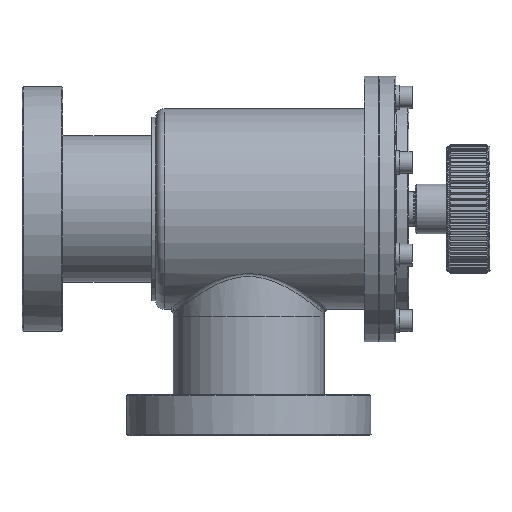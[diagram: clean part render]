
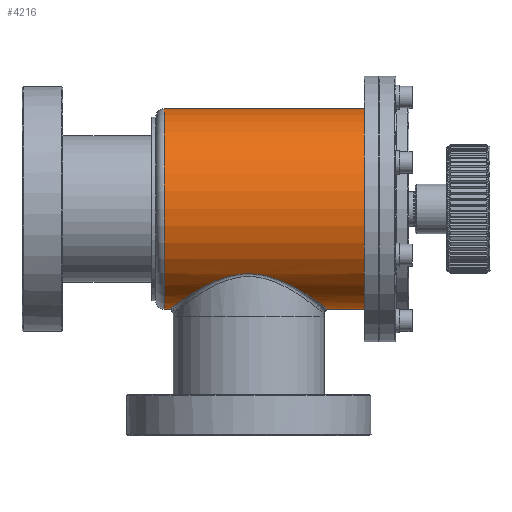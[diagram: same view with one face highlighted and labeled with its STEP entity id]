
A CAD part, top view. The second image highlights one B-rep face of the part: STEP entity #4216.
In plain terms, the highlighted cylindrical face has radius 46.5 mm (diameter 93 mm), a full revolution.
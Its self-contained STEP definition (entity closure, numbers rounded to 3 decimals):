
#2862=FACE_BOUND('',#5525,.T.);
#2863=FACE_BOUND('',#5526,.T.);
#2864=FACE_BOUND('',#5527,.T.);
#3688=B_SPLINE_CURVE_WITH_KNOTS('',3,(#18205,#18206,#18207,#18208,#18209,
#18210,#18211,#18212,#18213,#18214,#18215,#18216,#18217,#18218,#18219,#18220,
#18221,#18222,#18223,#18224,#18225,#18226,#18227,#18228,#18229,#18230,#18231,
#18232,#18233,#18234,#18235,#18236,#18237,#18238,#18239,#18240,#18241,#18242,
#18243,#18244,#18245,#18246,#18247,#18248,#18249,#18250),.UNSPECIFIED.,.T.,
 .F.,(2,2,2,2,2,2,2,2,2,2,2,2,2,2,2,2,2,2,2,2,2,2,2,2,2),(-0.063,0.,0.063,
0.094,0.125,0.156,0.188,0.219,0.25,0.313,0.375,0.438,
0.5,0.531,0.563,0.625,0.656,0.688,0.719,0.75,0.813,0.875,0.938,
1.,1.063),.UNSPECIFIED.);
#4216=ADVANCED_FACE('',(#2862,#2863,#2864),#4415,.T.);
#4415=CYLINDRICAL_SURFACE('',#12024,46.5);
#5525=EDGE_LOOP('',(#8361));
#5526=EDGE_LOOP('',(#8362));
#5527=EDGE_LOOP('',(#8363));
#6123=CIRCLE('',#12022,46.5);
#6124=CIRCLE('',#12023,46.5);
#8361=ORIENTED_EDGE('',*,*,#10333,.T.);
#8362=ORIENTED_EDGE('',*,*,#10334,.T.);
#8363=ORIENTED_EDGE('',*,*,#10335,.T.);
#9177=VERTEX_POINT('',#18204);
#9178=VERTEX_POINT('',#18251);
#9179=VERTEX_POINT('',#18253);
#10333=EDGE_CURVE('',#9177,#9177,#6123,.T.);
#10334=EDGE_CURVE('',#9178,#9178,#3688,.T.);
#10335=EDGE_CURVE('',#9179,#9179,#6124,.T.);
#12022=AXIS2_PLACEMENT_3D('',#18203,#14450,#14451);
#12023=AXIS2_PLACEMENT_3D('',#18252,#14452,#14453);
#12024=AXIS2_PLACEMENT_3D('',#18254,#14454,#14455);
#14450=DIRECTION('',(1.,0.,0.));
#14451=DIRECTION('',(0.,0.,-1.));
#14452=DIRECTION('',(-1.,0.,0.));
#14453=DIRECTION('',(0.,0.,1.));
#14454=DIRECTION('',(-1.,0.,0.));
#14455=DIRECTION('',(0.,0.,1.));
#18203=CARTESIAN_POINT('',(4.,0.,0.));
#18204=CARTESIAN_POINT('',(4.,0.,-46.5));
#18205=CARTESIAN_POINT('',(37.968,-30.064,35.474));
#18206=CARTESIAN_POINT('',(48.032,-30.064,35.474));
#18207=CARTESIAN_POINT('',(52.901,-31.3,34.474));
#18208=CARTESIAN_POINT('',(59.385,-33.868,31.885));
#18209=CARTESIAN_POINT('',(61.453,-34.849,30.826));
#18210=CARTESIAN_POINT('',(65.29,-36.853,28.4));
#18211=CARTESIAN_POINT('',(67.071,-37.881,27.031));
#18212=CARTESIAN_POINT('',(70.388,-39.898,23.955));
#18213=CARTESIAN_POINT('',(71.934,-40.896,22.227));
#18214=CARTESIAN_POINT('',(74.659,-42.712,18.5));
#18215=CARTESIAN_POINT('',(75.851,-43.536,16.494));
#18216=CARTESIAN_POINT('',(77.853,-44.945,12.143));
#18217=CARTESIAN_POINT('',(78.643,-45.514,9.827));
#18218=CARTESIAN_POINT('',(79.712,-46.288,5.049));
#18219=CARTESIAN_POINT('',(79.996,-46.497,2.53));
#18220=CARTESIAN_POINT('',(80.008,-46.506,-4.901));
#18221=CARTESIAN_POINT('',(78.892,-45.677,-9.844));
#18222=CARTESIAN_POINT('',(74.912,-42.875,-18.574));
#18223=CARTESIAN_POINT('',(72.101,-40.942,-22.354));
#18224=CARTESIAN_POINT('',(65.451,-36.893,-28.545));
#18225=CARTESIAN_POINT('',(61.575,-34.738,-31.007));
#18226=CARTESIAN_POINT('',(52.929,-31.308,-34.467));
#18227=CARTESIAN_POINT('',(48.026,-30.066,-35.472));
#18228=CARTESIAN_POINT('',(40.507,-30.063,-35.475));
#18229=CARTESIAN_POINT('',(38.066,-30.352,-35.235));
#18230=CARTESIAN_POINT('',(33.293,-31.392,-34.311));
#18231=CARTESIAN_POINT('',(30.979,-32.142,-33.625));
#18232=CARTESIAN_POINT('',(24.474,-34.713,-31.035));
#18233=CARTESIAN_POINT('',(20.607,-36.861,-28.585));
#18234=CARTESIAN_POINT('',(15.628,-39.888,-23.971));
#18235=CARTESIAN_POINT('',(14.08,-40.887,-22.244));
#18236=CARTESIAN_POINT('',(11.351,-42.705,-18.516));
#18237=CARTESIAN_POINT('',(10.157,-43.531,-16.509));
#18238=CARTESIAN_POINT('',(8.153,-44.941,-12.158));
#18239=CARTESIAN_POINT('',(7.361,-45.511,-9.84));
#18240=CARTESIAN_POINT('',(6.29,-46.287,-5.06));
#18241=CARTESIAN_POINT('',(6.004,-46.497,-2.539));
#18242=CARTESIAN_POINT('',(5.991,-46.506,4.897));
#18243=CARTESIAN_POINT('',(7.107,-45.677,9.843));
#18244=CARTESIAN_POINT('',(11.089,-42.874,18.577));
#18245=CARTESIAN_POINT('',(13.903,-40.939,22.359));
#18246=CARTESIAN_POINT('',(20.559,-36.887,28.553));
#18247=CARTESIAN_POINT('',(24.438,-34.732,31.014));
#18248=CARTESIAN_POINT('',(33.092,-31.302,34.473));
#18249=CARTESIAN_POINT('',(37.968,-30.064,35.474));
#18250=CARTESIAN_POINT('',(48.032,-30.064,35.474));
#18251=CARTESIAN_POINT('',(43.,-30.064,35.474));
#18252=CARTESIAN_POINT('',(98.6,0.,0.));
#18253=CARTESIAN_POINT('',(98.6,0.,46.5));
#18254=CARTESIAN_POINT('',(0.,0.,0.));
